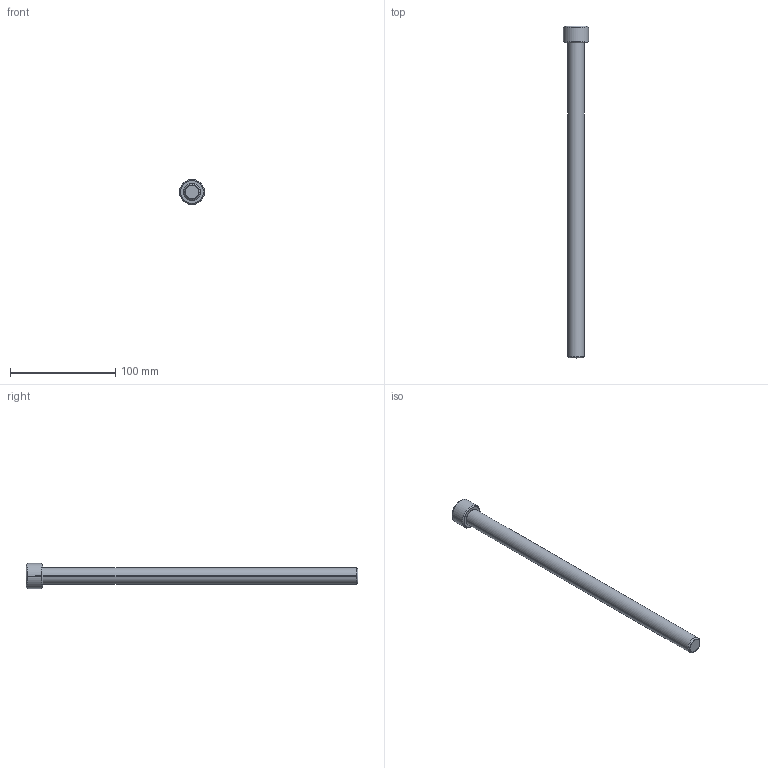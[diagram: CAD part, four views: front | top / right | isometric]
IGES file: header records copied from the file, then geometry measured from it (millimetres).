
Start section: SolidWorks IGES file using analytic representation for surfaces
Global section: file name: D:\Cleonir_arquivos\MT_15_07\Parafuso Allen Cabeça Cilindrica\CLM16300.igs; native system: SolidWorks 2013; preprocessor: SolidWorks 2013; author: Cleonir; date: 130730.130244; units: millimetre
Bounding box: 24 x 316 x 24 mm (x, y, z)
Surface area: 17605.8 mm2 (no closed solid volume)
Topology: 0 solids, 0 shells, 283 faces, 2526 edges, 2526 vertices
Faces by surface type: bspline 265, revolution 18
